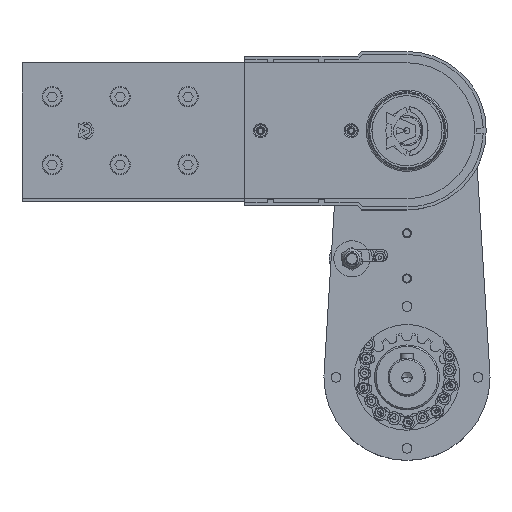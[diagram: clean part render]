
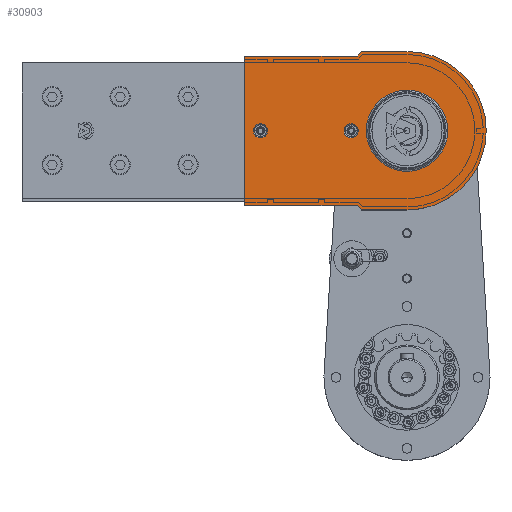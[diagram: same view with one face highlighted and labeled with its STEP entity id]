
A CAD part, top view. The second image highlights one B-rep face of the part: STEP entity #30903.
In plain terms, the highlighted planar face has unit normal (0, 0, 1).
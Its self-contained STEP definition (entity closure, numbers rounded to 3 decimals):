
#1827 = EDGE_CURVE ( 'NONE', #42013, #56066, #15375, .T. ) ;
#2245 = EDGE_CURVE ( 'NONE', #71710, #54844, #52843, .T. ) ;
#2273 = AXIS2_PLACEMENT_3D ( 'NONE', #9447, #31172, #75082 ) ;
#2488 = CARTESIAN_POINT ( 'NONE',  ( 33., 49.5, 0. ) ) ;
#3635 = VECTOR ( 'NONE', #44796, 1000. ) ;
#4479 = CARTESIAN_POINT ( 'NONE',  ( 41.7, 0., 0. ) ) ;
#4739 = CARTESIAN_POINT ( 'NONE',  ( 32.3, 0., 0. ) ) ;
#5756 = FACE_BOUND ( 'NONE', #19752, .T. ) ;
#7328 = VERTEX_POINT ( 'NONE', #56735 ) ;
#7744 = CIRCLE ( 'NONE', #58309, 26.933 ) ;
#8150 = DIRECTION ( 'NONE',  ( 1., 0., 0. ) ) ;
#8151 = LINE ( 'NONE', #34714, #18409 ) ;
#8456 = VERTEX_POINT ( 'NONE', #90816 ) ;
#9139 = FACE_BOUND ( 'NONE', #26455, .T. ) ;
#9447 = CARTESIAN_POINT ( 'NONE',  ( 97., 0., 0. ) ) ;
#9852 = ORIENTED_EDGE ( 'NONE', *, *, #50807, .T. ) ;
#11334 = ORIENTED_EDGE ( 'NONE', *, *, #34373, .T. ) ;
#12623 = LINE ( 'NONE', #81273, #45692 ) ;
#13362 = CIRCLE ( 'NONE', #37343, 4.7 ) ;
#13822 = ORIENTED_EDGE ( 'NONE', *, *, #31914, .T. ) ;
#14794 = CARTESIAN_POINT ( 'NONE',  ( 107.5, 49.5, 0. ) ) ;
#15375 = CIRCLE ( 'NONE', #63380, 4.7 ) ;
#15609 = DIRECTION ( 'NONE',  ( 0., 0., 1. ) ) ;
#17067 = ORIENTED_EDGE ( 'NONE', *, *, #72076, .F. ) ;
#18409 = VECTOR ( 'NONE', #94229, 1000. ) ;
#19238 = VERTEX_POINT ( 'NONE', #44666 ) ;
#19406 = FACE_OUTER_BOUND ( 'NONE', #25736, .T. ) ;
#19752 = EDGE_LOOP ( 'NONE', ( #9852, #87488 ) ) ;
#20727 = CIRCLE ( 'NONE', #72075, 4.7 ) ;
#22780 = CARTESIAN_POINT ( 'NONE',  ( 92.3, 0., 0. ) ) ;
#23194 = CARTESIAN_POINT ( 'NONE',  ( 33., 49.5, 0. ) ) ;
#23813 = CARTESIAN_POINT ( 'NONE',  ( 97., 0., 0. ) ) ;
#23817 = EDGE_LOOP ( 'NONE', ( #44305, #84565 ) ) ;
#24856 = LINE ( 'NONE', #69762, #91225 ) ;
#25178 = DIRECTION ( 'NONE',  ( 1., 0., 0. ) ) ;
#25324 = EDGE_CURVE ( 'NONE', #39257, #40392, #91241, .T. ) ;
#25542 = DIRECTION ( 'NONE',  ( 0.707, 0.707, 0. ) ) ;
#25603 = EDGE_CURVE ( 'NONE', #7328, #71710, #53475, .T. ) ;
#25637 = EDGE_CURVE ( 'NONE', #51002, #32762, #35091, .T. ) ;
#25736 = EDGE_LOOP ( 'NONE', ( #65996, #61220, #60677, #13822, #86728, #11334, #58808, #70853 ) ) ;
#26455 = EDGE_LOOP ( 'NONE', ( #45958, #17067 ) ) ;
#28205 = CARTESIAN_POINT ( 'NONE',  ( 0., 0., 0. ) ) ;
#30525 = DIRECTION ( 'NONE',  ( 0., 0., 1. ) ) ;
#30903 = ADVANCED_FACE ( 'NONE', ( #5756, #9139, #45689, #19406 ), #66559, .T. ) ;
#31172 = DIRECTION ( 'NONE',  ( 0., 0., 1. ) ) ;
#31256 = DIRECTION ( 'NONE',  ( 0., 0., 1. ) ) ;
#31914 = EDGE_CURVE ( 'NONE', #40392, #49216, #50863, .T. ) ;
#32762 = VERTEX_POINT ( 'NONE', #63915 ) ;
#34373 = EDGE_CURVE ( 'NONE', #19238, #81404, #8151, .T. ) ;
#34714 = CARTESIAN_POINT ( 'NONE',  ( 30., -52.5, 0. ) ) ;
#35091 = CIRCLE ( 'NONE', #2273, 4.7 ) ;
#35666 = CARTESIAN_POINT ( 'NONE',  ( -26.933, 0., 0. ) ) ;
#36836 = CIRCLE ( 'NONE', #64087, 26.933 ) ;
#36987 = DIRECTION ( 'NONE',  ( 1., 0., 0. ) ) ;
#37202 = CARTESIAN_POINT ( 'NONE',  ( 37., 0., 0. ) ) ;
#37343 = AXIS2_PLACEMENT_3D ( 'NONE', #83163, #54645, #25178 ) ;
#39257 = VERTEX_POINT ( 'NONE', #23194 ) ;
#40392 = VERTEX_POINT ( 'NONE', #58656 ) ;
#42013 = VERTEX_POINT ( 'NONE', #4479 ) ;
#43033 = CARTESIAN_POINT ( 'NONE',  ( 107.5, -49.5, 0. ) ) ;
#44305 = ORIENTED_EDGE ( 'NONE', *, *, #83974, .F. ) ;
#44666 = CARTESIAN_POINT ( 'NONE',  ( 0., -52.5, 0. ) ) ;
#44796 = DIRECTION ( 'NONE',  ( 0., 1., 0. ) ) ;
#44961 = CARTESIAN_POINT ( 'NONE',  ( 0., 0., 0. ) ) ;
#45689 = FACE_BOUND ( 'NONE', #23817, .T. ) ;
#45692 = VECTOR ( 'NONE', #81906, 1000. ) ;
#45738 = AXIS2_PLACEMENT_3D ( 'NONE', #44961, #15609, #53055 ) ;
#45958 = ORIENTED_EDGE ( 'NONE', *, *, #1827, .F. ) ;
#46778 = EDGE_CURVE ( 'NONE', #81404, #7328, #24856, .T. ) ;
#49216 = VERTEX_POINT ( 'NONE', #88873 ) ;
#49273 = EDGE_CURVE ( 'NONE', #54844, #39257, #12623, .T. ) ;
#50807 = EDGE_CURVE ( 'NONE', #8456, #94173, #7744, .T. ) ;
#50863 = LINE ( 'NONE', #72795, #80683 ) ;
#51002 = VERTEX_POINT ( 'NONE', #22780 ) ;
#51250 = DIRECTION ( 'NONE',  ( 1., 0., 0. ) ) ;
#51276 = CARTESIAN_POINT ( 'NONE',  ( 107.5, -49.5, 0. ) ) ;
#52365 = VECTOR ( 'NONE', #72297, 1000. ) ;
#52843 = LINE ( 'NONE', #51276, #3635 ) ;
#53055 = DIRECTION ( 'NONE',  ( 1., 0., 0. ) ) ;
#53070 = DIRECTION ( 'NONE',  ( 0., 0., -1. ) ) ;
#53475 = LINE ( 'NONE', #43033, #52365 ) ;
#54645 = DIRECTION ( 'NONE',  ( 0., 0., 1. ) ) ;
#54844 = VERTEX_POINT ( 'NONE', #14794 ) ;
#56066 = VERTEX_POINT ( 'NONE', #4739 ) ;
#56512 = CIRCLE ( 'NONE', #45738, 52.5 ) ;
#56650 = CARTESIAN_POINT ( 'NONE',  ( 107.5, -49.5, 0. ) ) ;
#56735 = CARTESIAN_POINT ( 'NONE',  ( 33., -49.5, 0. ) ) ;
#57683 = DIRECTION ( 'NONE',  ( 0., 0., -1. ) ) ;
#58309 = AXIS2_PLACEMENT_3D ( 'NONE', #28205, #57683, #51250 ) ;
#58656 = CARTESIAN_POINT ( 'NONE',  ( 30., 52.5, 0. ) ) ;
#58808 = ORIENTED_EDGE ( 'NONE', *, *, #46778, .T. ) ;
#60336 = DIRECTION ( 'NONE',  ( 1., 0., 0. ) ) ;
#60677 = ORIENTED_EDGE ( 'NONE', *, *, #25324, .T. ) ;
#60937 = EDGE_CURVE ( 'NONE', #94173, #8456, #36836, .T. ) ;
#61220 = ORIENTED_EDGE ( 'NONE', *, *, #49273, .T. ) ;
#63364 = EDGE_CURVE ( 'NONE', #49216, #19238, #56512, .T. ) ;
#63380 = AXIS2_PLACEMENT_3D ( 'NONE', #37202, #65482, #8150 ) ;
#63915 = CARTESIAN_POINT ( 'NONE',  ( 101.7, 0., 0. ) ) ;
#64087 = AXIS2_PLACEMENT_3D ( 'NONE', #73913, #53070, #36987 ) ;
#65045 = AXIS2_PLACEMENT_3D ( 'NONE', #73933, #31256, #75179 ) ;
#65482 = DIRECTION ( 'NONE',  ( 0., 0., 1. ) ) ;
#65996 = ORIENTED_EDGE ( 'NONE', *, *, #2245, .T. ) ;
#66559 = PLANE ( 'NONE',  #65045 ) ;
#69762 = CARTESIAN_POINT ( 'NONE',  ( 33., -49.5, 0. ) ) ;
#70853 = ORIENTED_EDGE ( 'NONE', *, *, #25603, .T. ) ;
#71710 = VERTEX_POINT ( 'NONE', #56650 ) ;
#72075 = AXIS2_PLACEMENT_3D ( 'NONE', #23813, #30525, #60336 ) ;
#72076 = EDGE_CURVE ( 'NONE', #56066, #42013, #13362, .T. ) ;
#72297 = DIRECTION ( 'NONE',  ( 1., 0., 0. ) ) ;
#72795 = CARTESIAN_POINT ( 'NONE',  ( 30., 52.5, 0. ) ) ;
#73094 = DIRECTION ( 'NONE',  ( -1., 0., 0. ) ) ;
#73913 = CARTESIAN_POINT ( 'NONE',  ( 0., 0., 0. ) ) ;
#73933 = CARTESIAN_POINT ( 'NONE',  ( 0., 0., 0. ) ) ;
#75082 = DIRECTION ( 'NONE',  ( 1., 0., 0. ) ) ;
#75179 = DIRECTION ( 'NONE',  ( 1., 0., 0. ) ) ;
#75796 = DIRECTION ( 'NONE',  ( -0.707, 0.707, 0. ) ) ;
#80683 = VECTOR ( 'NONE', #73094, 1000. ) ;
#81273 = CARTESIAN_POINT ( 'NONE',  ( 107.5, 49.5, 0. ) ) ;
#81404 = VERTEX_POINT ( 'NONE', #83442 ) ;
#81906 = DIRECTION ( 'NONE',  ( -1., 0., 0. ) ) ;
#82149 = VECTOR ( 'NONE', #75796, 1000. ) ;
#83163 = CARTESIAN_POINT ( 'NONE',  ( 37., 0., 0. ) ) ;
#83442 = CARTESIAN_POINT ( 'NONE',  ( 30., -52.5, 0. ) ) ;
#83974 = EDGE_CURVE ( 'NONE', #32762, #51002, #20727, .T. ) ;
#84565 = ORIENTED_EDGE ( 'NONE', *, *, #25637, .F. ) ;
#86728 = ORIENTED_EDGE ( 'NONE', *, *, #63364, .T. ) ;
#87488 = ORIENTED_EDGE ( 'NONE', *, *, #60937, .T. ) ;
#88873 = CARTESIAN_POINT ( 'NONE',  ( 0., 52.5, 0. ) ) ;
#90816 = CARTESIAN_POINT ( 'NONE',  ( 26.933, 0., 0. ) ) ;
#91225 = VECTOR ( 'NONE', #25542, 1000. ) ;
#91241 = LINE ( 'NONE', #2488, #82149 ) ;
#94173 = VERTEX_POINT ( 'NONE', #35666 ) ;
#94229 = DIRECTION ( 'NONE',  ( 1., 0., 0. ) ) ;
